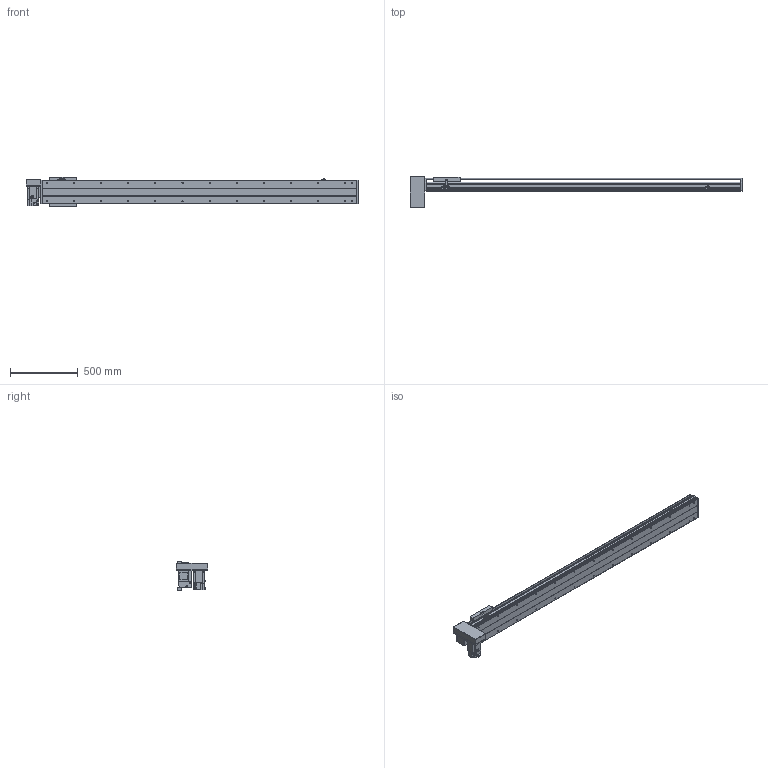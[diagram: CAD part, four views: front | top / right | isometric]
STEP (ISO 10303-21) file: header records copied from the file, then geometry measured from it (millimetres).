
FILE_DESCRIPTION(/* description */ ('STEP AP214'),/* implementation_level */ '2;1');
FILE_NAME(/* name */ 'PBS200-P40-S1950-RD-T75-C1-N(0)',/* time_stamp */ '2022-06-11T09:30:54+02:00',/* author */ ('License CC BY-ND 4.0'),/* organization */ ('CADENAS'),/* preprocessor_version */ 'ST-DEVELOPER v18.102',/* originating_system */ 'PARTsolutions',/* authorisation */ ' ');
FILE_SCHEMA (('AUTOMOTIVE_DESIGN {1 0 10303 214 3 1 1}'));
Length unit declared in the file: millimetre
Products named in the file (7): PBS200-P40-S1950-RD-T75-C1-N(0); PBS200_sensor; PBS200_plant; PBS200_sliser; T75-p1; PBS200T-RD_motors; PBS200-S1950()_body
Assembly tree (8 placements, depth 2):
  PBS200-P40-S1950-RD-T75-C1-N(0)
    PBS200_sensor  x3
    PBS200_plant
    PBS200_sliser
    T75-p1
    PBS200T-RD_motors
    PBS200-S1950()_body
Bounding box: 2450 x 230 x 221 mm (x, y, z)
Volume: 17169086.4 mm3; surface area: 2755089 mm2
Topology: 8 solids, 8 shells, 950 faces, 2424 edges, 1578 vertices
Faces by surface type: plane 584, cylinder 308, cone 58
Full cylindrical faces by diameter (mm): 2.459 x6, 3.242 x4, 4.5 x6, 4.917 x4, 5 x6, 6 x7, 6.6 x8, 6.647 x30, 8 x6, 10 x4, 12 x8, 38 x2, 40 x1, 70 x1
Entity records: 25181 total; most frequent: DIRECTION 4447, CARTESIAN_POINT 4282, ORIENTED_EDGE 4042, EDGE_CURVE 2021, AXIS2_PLACEMENT_3D 1567, VERTEX_POINT 1402, LINE 1313, VECTOR 1313
